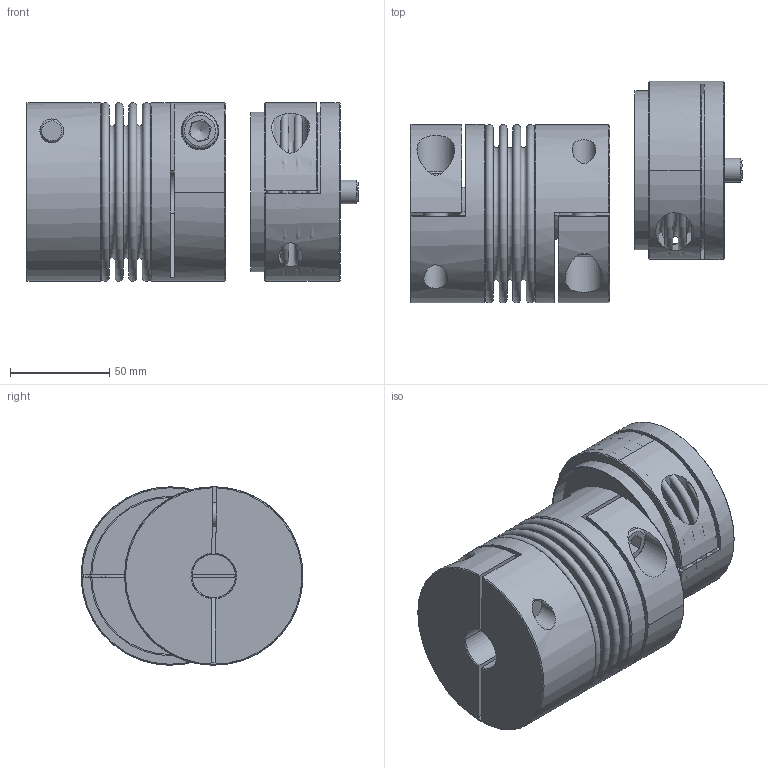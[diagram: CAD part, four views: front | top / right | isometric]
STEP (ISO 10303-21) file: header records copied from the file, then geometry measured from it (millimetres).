
FILE_DESCRIPTION( ( 'Unknown' ), '1' );
FILE_NAME( 'C:/Dokumente und Einstellungen/Sven/Desktop/cad - homepage/KB4/KB4-200-101.stp', 'Unknown', ( 'Unknown' ), ( 'Unknown' ), 'XStep 1.0', 'Unknown', ' ' );
FILE_SCHEMA( ( 'automotive_design' ) );
Length unit declared in the file: millimetre
Products named in the file (4): Assem1; KN200_Standard; Socket Head Cap Screw_DIN_DIN 912 M12 x 35 --- 35N; BK200_Standard
Bounding box: 167.42 x 111.91 x 90 mm (x, y, z)
Volume: 675607.7 mm3; surface area: 223534.6 mm2
Topology: 8 solids, 8 shells, 209 faces, 443 edges, 285 vertices
Faces by surface type: plane 108, torus 42, cylinder 41, cone 18
Full cylindrical faces by diameter (mm): 12 x6, 12.5 x3, 18 x3, 19 x3, 22 x3, 79.2 x4, 80.4 x4, 90 x3
Entity records: 2332 total; most frequent: CARTESIAN_POINT 507, DIRECTION 361, ORIENTED_EDGE 244, AXIS2_PLACEMENT_3D 161, EDGE_LOOP 140, EDGE_CURVE 122, FACE_OUTER_BOUND 112, VERTEX_POINT 99
